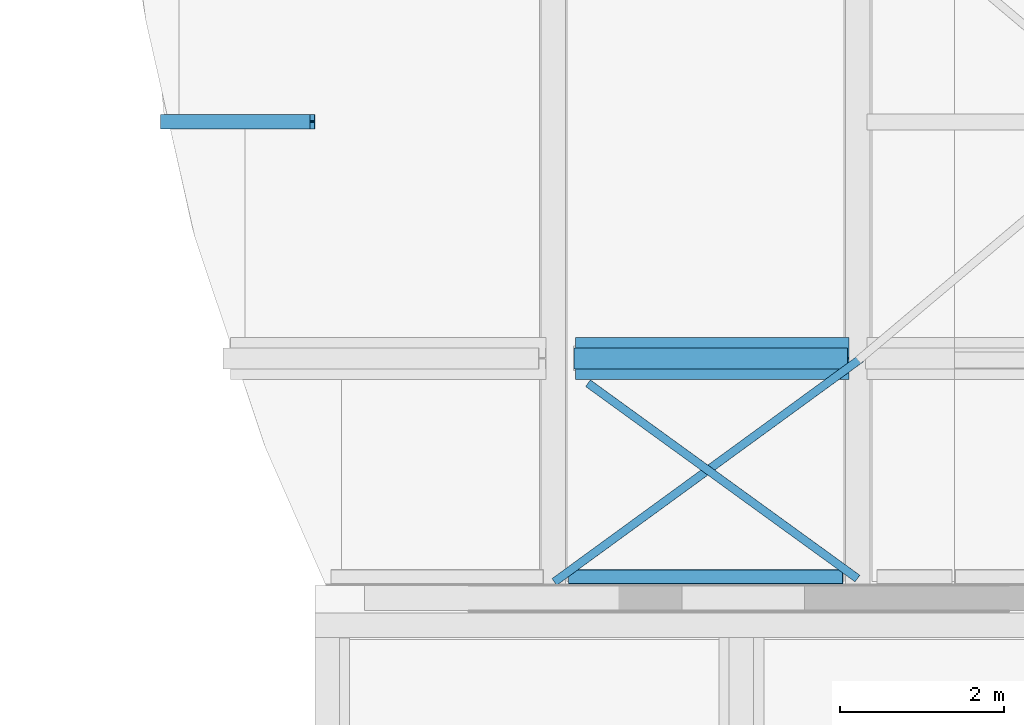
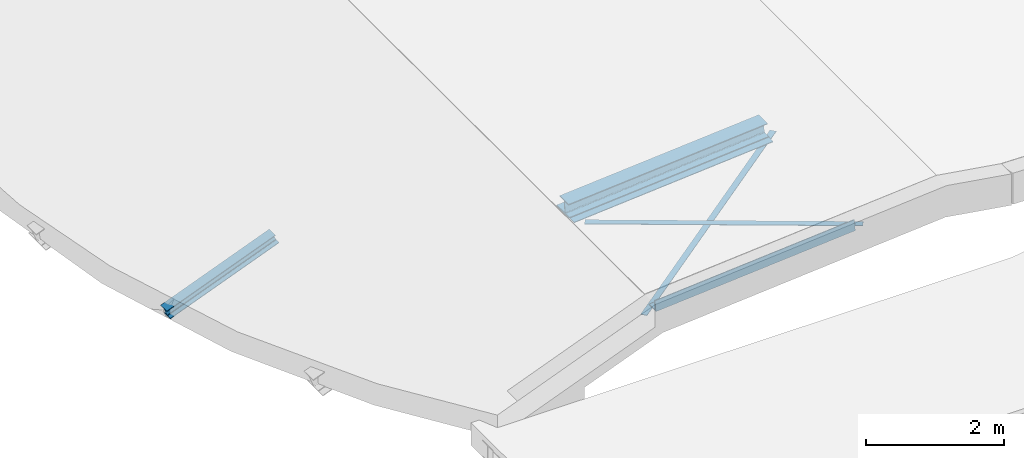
# One storey, part 15 of 50: 5 beams.
"""IFC2X3 building model written with IfcOpenShell, lengths in millimetres."""

from ifc_helpers import new_model, entity, si_unit, converted_unit, derived_unit, direction, frame, frame_2d, origin, place, context, subcontext, project, spatial, polyline, circle_curve, parameter, trimmed, segment, composite_curve, rectangle, i_section, outline, extrude, source, transform, mapped, material, material_list, type_object, type_shapes, element, save


model = new_model("IFC2X3")

# Units and contexts
model_context = context("Model", 3, precision=0.01, world=origin(), true_north=direction((6.12303176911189e-17, 1.0)))
body_context = subcontext(model_context, "Body", "Model", "MODEL_VIEW")
ifc_project = project(units=[si_unit("LENGTHUNIT", "METRE", prefix="MILLI"), si_unit("AREAUNIT", "SQUARE_METRE", prefix="MILLI"), si_unit("VOLUMEUNIT", "CUBIC_METRE"), converted_unit("PLANEANGLEUNIT", "DEGREE", entity("IfcRatioMeasure", 0.0174532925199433), si_unit("PLANEANGLEUNIT", "RADIAN"), dimensions=[0, 0, 0, 0, 0, 0, 0]), si_unit("MASSUNIT", "GRAM", prefix="KILO"), derived_unit("MASSDENSITYUNIT", [(si_unit("MASSUNIT", "GRAM", prefix="KILO"), 1), (si_unit("LENGTHUNIT", "METRE"), -3)]), derived_unit("MOMENTOFINERTIAUNIT", [(si_unit("LENGTHUNIT", "METRE"), 4)]), si_unit("TIMEUNIT", "SECOND"), si_unit("FREQUENCYUNIT", "HERTZ"), si_unit("THERMODYNAMICTEMPERATUREUNIT", "DEGREE_CELSIUS"), derived_unit("THERMALTRANSMITTANCEUNIT", [(si_unit("MASSUNIT", "GRAM", prefix="KILO"), 1), (si_unit("THERMODYNAMICTEMPERATUREUNIT", "KELVIN"), -1), (si_unit("TIMEUNIT", "SECOND"), -3)]), derived_unit("VOLUMETRICFLOWRATEUNIT", [(si_unit("LENGTHUNIT", "METRE"), 3), (si_unit("TIMEUNIT", "SECOND"), -1)]), si_unit("ELECTRICCURRENTUNIT", "AMPERE"), si_unit("ELECTRICVOLTAGEUNIT", "VOLT"), si_unit("POWERUNIT", "WATT"), si_unit("FORCEUNIT", "NEWTON", prefix="KILO"), si_unit("ILLUMINANCEUNIT", "LUX"), si_unit("LUMINOUSFLUXUNIT", "LUMEN"), si_unit("LUMINOUSINTENSITYUNIT", "CANDELA"), derived_unit("USERDEFINED", [(si_unit("MASSUNIT", "GRAM", prefix="KILO"), -1), (si_unit("LENGTHUNIT", "METRE"), -2), (si_unit("TIMEUNIT", "SECOND"), 3), (si_unit("LUMINOUSFLUXUNIT", "LUMEN"), 1)]), derived_unit("LINEARVELOCITYUNIT", [(si_unit("LENGTHUNIT", "METRE"), 1), (si_unit("TIMEUNIT", "SECOND"), -1)]), si_unit("PRESSUREUNIT", "PASCAL"), derived_unit("USERDEFINED", [(si_unit("LENGTHUNIT", "METRE"), -2), (si_unit("MASSUNIT", "GRAM", prefix="KILO"), 1), (si_unit("TIMEUNIT", "SECOND"), -2)]), derived_unit("LINEARFORCEUNIT", [(si_unit("MASSUNIT", "GRAM", prefix="KILO"), 1), (si_unit("LENGTHUNIT", "METRE"), 1), (si_unit("TIMEUNIT", "SECOND"), -2), (si_unit("LENGTHUNIT", "METRE"), -1)]), derived_unit("PLANARFORCEUNIT", [(si_unit("MASSUNIT", "GRAM", prefix="KILO"), 1), (si_unit("LENGTHUNIT", "METRE"), 1), (si_unit("TIMEUNIT", "SECOND"), -2), (si_unit("LENGTHUNIT", "METRE"), -2)])], contexts=[model_context])

# Site, building, storey
site_placement = place(None, origin())
site = spatial("IfcSite", under=ifc_project, at=site_placement, Name="Theater aan de Parade", CompositionType="ELEMENT")
building_placement = place(site_placement, origin())
building = spatial("IfcBuilding", under=site, at=building_placement, Name="Theater aan de Parade", CompositionType="ELEMENT")
storey_placement = place(building_placement, frame((0.0, 0.0, 15820.0)))
storey = spatial("IfcBuildingStorey", under=building, at=storey_placement, Name="04 vierde verdieping", CompositionType="ELEMENT", Elevation=15820.0)

# Beams
ifc_material_1 = material(Name="00_PBT_MAT_staal_S355")
beam_type_1 = type_object("IfcBeamType", Name="28_PBT_SF_staal_H-profiel:S355_HE180A", PredefinedType="NOTDEFINED")
beam_1_placement = place(storey_placement, frame((40765.331382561, 26604.2379914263, -219.310883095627), z_axis=(-0.363251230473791, 0.0, 0.931691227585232), x_axis=(0.931691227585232, 0.0, 0.363251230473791)))
element("IfcBeam", 1, at=beam_1_placement, inside=storey, type_object=beam_type_1, material=ifc_material_1, Name="28_PBT_SF_staal_H-profiel:S355_HE180A", ObjectType="28_PBT_SF_staal_H-profiel:S355_HE180A", context=body_context, shape_type="SweptSolid", body=[
    extrude(outline(composite_curve([segment(polyline([(76.0, -90.0), (85.5000000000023, -90.0)]), True, "CONTINUOUS"), segment(polyline([(85.4999999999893, -90.0), (85.4999999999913, 90.0)]), True, "CONTINUOUS"), segment(polyline([(85.5000000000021, 90.0), (76.0, 90.0)]), True, "CONTINUOUS"), segment(polyline([(76.0, 90.0), (76.0, 18.0)]), True, "CONTINUOUS"), segment(trimmed(circle_curve(frame_2d((61.0, 18.0), x_axis=(1.0, 0.0)), 14.9999999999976), [parameter(269.999999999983)], [parameter(0.0)], True, "PARAMETER"), False, "CONTINUOUS"), segment(polyline([(61.0, 3.0), (-61.0, 3.0)]), True, "CONTINUOUS"), segment(trimmed(circle_curve(frame_2d((-61.0, 18.0), x_axis=(0.0, -1.0)), 15.0000000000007), [parameter(270.0)], [parameter(0.0)], True, "PARAMETER"), False, "CONTINUOUS"), segment(polyline([(-76.0, 18.0), (-76.0, 90.0)]), True, "CONTINUOUS"), segment(polyline([(-76.0, 90.0), (-85.5000000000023, 90.0)]), True, "CONTINUOUS"), segment(polyline([(-85.5000000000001, 90.0), (-85.5000000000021, -90.0)]), True, "CONTINUOUS"), segment(polyline([(-85.4999999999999, -90.0), (-76.0, -90.0)]), True, "CONTINUOUS"), segment(polyline([(-76.0, -90.0), (-76.0, -18.0)]), True, "CONTINUOUS"), segment(trimmed(circle_curve(frame_2d((-61.0, -18.0), x_axis=(-1.0, 0.0)), 15.0000000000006), [parameter(270.0)], [parameter(0.0)], True, "PARAMETER"), False, "CONTINUOUS"), segment(polyline([(-61.0, -3.0), (61.0, -3.0)]), True, "CONTINUOUS"), segment(trimmed(circle_curve(frame_2d((61.0, -18.0), x_axis=(0.0, 1.0)), 14.9999999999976), [parameter(269.999999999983)], [parameter(0.0)], True, "PARAMETER"), False, "CONTINUOUS"), segment(polyline([(76.0, -18.0), (76.0, -90.0)]), True, "CONTINUOUS")], self_intersect=False)), frame((0.0, 0.0, -205.500000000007), z_axis=(1.0, 0.0, 0.0), x_axis=(0.0, 0.0, -1.0)), (0.0, 0.0, 1.0), 1960.00000000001),
])
beam_type_2 = type_object("IfcBeamType", Name="28_PBT_SF_staal_L-profiel:S355_L200x200x20", PredefinedType="NOTDEFINED")
beam_2_placement = place(storey_placement, frame((45768.8631319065, 20986.7999999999, 1692.76368893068), z_axis=(-0.0796770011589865, 0.0, 0.996820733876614), x_axis=(0.996820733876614, 0.0, 0.0796770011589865)))
element("IfcBeam", 2, at=beam_2_placement, inside=storey, type_object=beam_type_2, material=ifc_material_1, Name="28_PBT_SF_staal_L-profiel:S355_L200x200x20", ObjectType="28_PBT_SF_staal_L-profiel:S355_L200x200x20", context=body_context, shape_type="SweptSolid", body=[
    extrude(outline(composite_curve([segment(polyline([(-124.444444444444, -75.5555555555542), (75.5555555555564, -75.5555555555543)]), True, "CONTINUOUS"), segment(polyline([(75.5555555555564, -75.5555555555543), (75.5555555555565, 124.444444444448)]), True, "CONTINUOUS"), segment(polyline([(75.5555555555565, 124.444444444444), (64.5555555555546, 124.444444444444)]), True, "CONTINUOUS"), segment(trimmed(circle_curve(frame_2d((64.5555555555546, 115.444444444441), x_axis=(0.0, 1.0)), 8.99999999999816), [parameter(0.0)], [parameter(90.0000000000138)], True, "PARAMETER"), True, "CONTINUOUS"), segment(polyline([(55.5555555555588, 115.444444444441), (55.5555555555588, -37.5555555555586)]), True, "CONTINUOUS"), segment(trimmed(circle_curve(frame_2d((37.5555555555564, -37.5555555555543), x_axis=(1.0, 0.0)), 17.9999999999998), [parameter(270.0)], [parameter(0.0)], True, "PARAMETER"), False, "CONTINUOUS"), segment(polyline([(37.5555555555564, -55.5555555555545), (-115.444444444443, -55.5555555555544)]), True, "CONTINUOUS"), segment(trimmed(circle_curve(frame_2d((-115.444444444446, -64.5555555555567), x_axis=(0.0, 1.0)), 8.99999999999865), [parameter(0.0)], [parameter(90.0000000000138)], True, "PARAMETER"), True, "CONTINUOUS"), segment(polyline([(-124.444444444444, -64.5555555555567), (-124.444444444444, -75.5555555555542)]), True, "CONTINUOUS")], self_intersect=False)), frame((0.0, 18.7555555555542, -319.444444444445), z_axis=(1.0, 0.0, 0.0), x_axis=(0.0, 0.0, -1.0)), (0.0, 0.0, 1.0), 3360.00000000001),
])
ifc_material_2 = material(Name="00_PBT_MAT_staal")
beam_type_3 = type_object("IfcBeamType", Name="28_PBT_SF_staal_strip:strip 100x10", PredefinedType="NOTDEFINED")
beam_3_placement = place(storey_placement, frame((45321.8740562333, 20780.0, 1657.03534993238), z_axis=(-0.0520918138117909, -0.0379676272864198, 0.99792028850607), x_axis=(0.80644491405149, 0.58778525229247, 0.0644600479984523)))
element("IfcBeam", 3, at=beam_3_placement, inside=storey, type_object=beam_type_3, material=ifc_material_2, Name="28_PBT_SF_staal_strip:strip 100x10", ObjectType="28_PBT_SF_staal_strip:strip 100x10", context=body_context, shape_type="SweptSolid", body=[
    extrude(rectangle(XDim=10.0000000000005, YDim=100.000000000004, at=frame_2d((-4.9737991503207e-14, 1.0795808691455e-12), x_axis=(0.0, 1.0))), frame((334.565848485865, -19.00688014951, -404.553752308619), z_axis=(1.0, 0.0, 0.0), x_axis=(0.0, -0.998898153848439, 0.0469305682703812)), (0.0, 0.0, 1.0), 4648.43877985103),
])
beam_4_placement = place(storey_placement, frame((49297.0506464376, 21018.3003177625, 1974.77568078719), z_axis=(-0.0522876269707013, 0.0379036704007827, 0.997912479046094), x_axis=(-0.807956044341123, 0.585693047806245, -0.0645808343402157)))
element("IfcBeam", 4, at=beam_4_placement, inside=storey, type_object=beam_type_3, material=ifc_material_2, Name="28_PBT_SF_staal_strip:strip 100x10", ObjectType="28_PBT_SF_staal_strip:strip 100x10", context=body_context, shape_type="SweptSolid", body=[
    extrude(rectangle(XDim=10.0000000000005, YDim=100.000000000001, at=frame_2d((-1.80833126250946e-12, 1.07913677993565e-12), x_axis=(0.0, 1.0))), frame((0.0, -18.9393739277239, -404.556918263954), z_axis=(1.0, 0.0, 0.0), x_axis=(0.0, -0.998905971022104, 0.046763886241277)), (0.0, 0.0, 1.0), 4076.65990726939),
])
ifc_material_3 = material(Name="00_PBT_MAT_Lucht")
ifc_material_list = material_list([ifc_material_3, ifc_material_1])
beam_type_4 = type_object("IfcBeamType", Name="28_PBT_SF_staal_H-profiel_met_onderplaat (void):S355_HE260A + onderplaat d=12", PredefinedType="BEAM", material=ifc_material_list)
shared_shape = source(origin(), body_context, "Body", "SweptSolid", [
    extrude(rectangle(XDim=12.0, YDim=510.0, at=frame_2d((3.72146757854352e-13, -1.4210854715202e-14), x_axis=(1.0, 0.0))), frame((-1543.82819861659, 0.0, -131.0), z_axis=(1.0, 0.0, 0.0), x_axis=(0.0, 0.0, -1.0)), (0.0, 0.0, 1.0), 3355.17861108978),
    extrude(i_section(OverallWidth=260.0, OverallDepth=250.0, WebThickness=7.49999999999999, FlangeThickness=12.4999999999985, FilletRadius=24.0, at=frame_2d((-4.05009359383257e-13, 0.0), x_axis=(0.0, 1.0))), frame((-1543.82819861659, 0.0, 0.0), z_axis=(1.0, 0.0, 0.0), x_axis=(0.0, 0.0, -1.0)), (0.0, 0.0, 1.0), 3355.17861108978),
])
type_shapes(beam_type_4, [shared_shape])
beam_5_placement = place(storey_placement, frame((47410.8632717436, 23708.9366326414, 1573.21325332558), z_axis=(-0.0796770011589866, 0.0, 0.996820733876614), x_axis=(0.996820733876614, 0.0, 0.0796770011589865)))
element("IfcBeam", 5, at=beam_5_placement, inside=storey, type_object=beam_type_4, material=ifc_material_1, Name="28_PBT_SF_staal_H-profiel_met_onderplaat (void):S355_HE260A + onderplaat d=12", ObjectType="28_PBT_SF_staal_H-profiel_met_onderplaat (void):S355_HE260A + onderplaat d=12", context=body_context, shape_type="MappedRepresentation", body=[
    mapped(shared_shape, transform((0.0, 0.0, 0.0), scale=1.0)),
])

save(model, "model.ifc")
